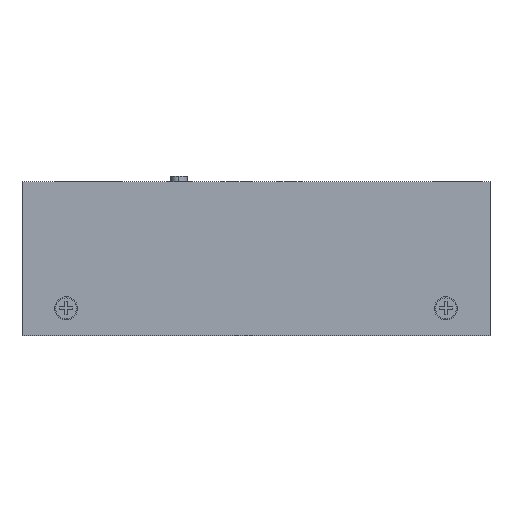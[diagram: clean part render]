
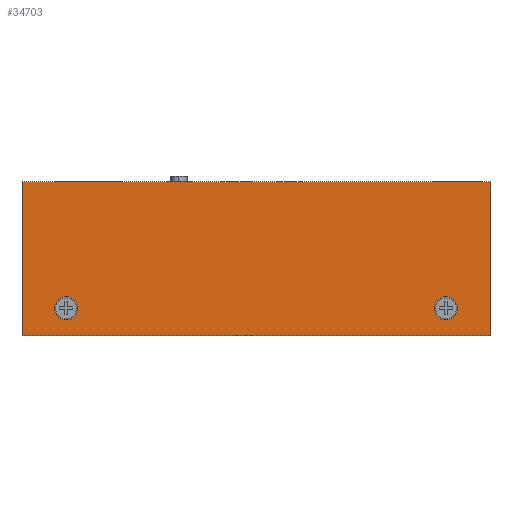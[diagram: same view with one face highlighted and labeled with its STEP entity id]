
A CAD part, left-side view. The second image highlights one B-rep face of the part: STEP entity #34703.
In plain terms, the highlighted planar face has unit normal (-1, 0, 0).
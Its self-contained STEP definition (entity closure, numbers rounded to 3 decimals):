
#1431 = CARTESIAN_POINT ( 'NONE',  ( -27.5, 42.5, 7.6 ) ) ;
#1749 = DIRECTION ( 'NONE',  ( 0., 0., 1. ) ) ;
#3354 = EDGE_LOOP ( 'NONE', ( #31233, #18241, #31537, #23735 ) ) ;
#4358 = AXIS2_PLACEMENT_3D ( 'NONE', #42921, #32651, #16279 ) ;
#4927 = DIRECTION ( 'NONE',  ( 0., 0., 1. ) ) ;
#5154 = VERTEX_POINT ( 'NONE', #21824 ) ;
#5876 = VERTEX_POINT ( 'NONE', #35185 ) ;
#6263 = LINE ( 'NONE', #1431, #19857 ) ;
#6659 = AXIS2_PLACEMENT_3D ( 'NONE', #41344, #8308, #1749 ) ;
#8308 = DIRECTION ( 'NONE',  ( -1., 0., 0. ) ) ;
#8695 = CARTESIAN_POINT ( 'NONE',  ( -27.5, 34.5, 0.7 ) ) ;
#8937 = ORIENTED_EDGE ( 'NONE', *, *, #26122, .F. ) ;
#9574 = PLANE ( 'NONE',  #4358 ) ;
#9684 = DIRECTION ( 'NONE',  ( 0., 0., 1. ) ) ;
#10685 = FACE_BOUND ( 'NONE', #23106, .T. ) ;
#10780 = EDGE_CURVE ( 'NONE', #19134, #16611, #11673, .T. ) ;
#11673 = CIRCLE ( 'NONE', #15445, 2.1 ) ;
#11985 = VERTEX_POINT ( 'NONE', #29918 ) ;
#13433 = CIRCLE ( 'NONE', #31690, 2.1 ) ;
#13648 = ORIENTED_EDGE ( 'NONE', *, *, #26802, .F. ) ;
#13778 = EDGE_CURVE ( 'NONE', #5154, #38101, #6263, .T. ) ;
#15445 = AXIS2_PLACEMENT_3D ( 'NONE', #17985, #37891, #41232 ) ;
#16034 = LINE ( 'NONE', #17057, #33961 ) ;
#16279 = DIRECTION ( 'NONE',  ( 0., 1., 0. ) ) ;
#16611 = VERTEX_POINT ( 'NONE', #8695 ) ;
#16646 = VECTOR ( 'NONE', #21542, 1000. ) ;
#17057 = CARTESIAN_POINT ( 'NONE',  ( -27.5, -42.5, 7.6 ) ) ;
#17285 = CARTESIAN_POINT ( 'NONE',  ( -27.5, -42.5, 21.6 ) ) ;
#17985 = CARTESIAN_POINT ( 'NONE',  ( -27.5, 34.5, -1.4 ) ) ;
#18197 = EDGE_CURVE ( 'NONE', #5876, #5154, #22295, .T. ) ;
#18241 = ORIENTED_EDGE ( 'NONE', *, *, #38237, .F. ) ;
#18768 = VERTEX_POINT ( 'NONE', #17285 ) ;
#19134 = VERTEX_POINT ( 'NONE', #29074 ) ;
#19614 = FACE_OUTER_BOUND ( 'NONE', #3354, .T. ) ;
#19857 = VECTOR ( 'NONE', #4927, 1000. ) ;
#20206 = EDGE_CURVE ( 'NONE', #16611, #19134, #37911, .T. ) ;
#20306 = DIRECTION ( 'NONE',  ( 0., 0., -1. ) ) ;
#21003 = CARTESIAN_POINT ( 'NONE',  ( -27.5, 34.5, -1.4 ) ) ;
#21542 = DIRECTION ( 'NONE',  ( 0., -1., 0. ) ) ;
#21824 = CARTESIAN_POINT ( 'NONE',  ( -27.5, 42.5, -6.4 ) ) ;
#22295 = LINE ( 'NONE', #41310, #32320 ) ;
#22484 = ORIENTED_EDGE ( 'NONE', *, *, #20206, .F. ) ;
#23106 = EDGE_LOOP ( 'NONE', ( #8937, #13648 ) ) ;
#23735 = ORIENTED_EDGE ( 'NONE', *, *, #18197, .F. ) ;
#24437 = DIRECTION ( 'NONE',  ( 0., 0., 1. ) ) ;
#24607 = LINE ( 'NONE', #41823, #16646 ) ;
#25750 = VERTEX_POINT ( 'NONE', #34411 ) ;
#26122 = EDGE_CURVE ( 'NONE', #25750, #11985, #13433, .T. ) ;
#26802 = EDGE_CURVE ( 'NONE', #11985, #25750, #31819, .T. ) ;
#28505 = EDGE_LOOP ( 'NONE', ( #22484, #32192 ) ) ;
#29074 = CARTESIAN_POINT ( 'NONE',  ( -27.5, 34.5, -3.5 ) ) ;
#29830 = DIRECTION ( 'NONE',  ( -1., 0., 0. ) ) ;
#29918 = CARTESIAN_POINT ( 'NONE',  ( -27.5, -34.5, -3.5 ) ) ;
#31233 = ORIENTED_EDGE ( 'NONE', *, *, #42223, .F. ) ;
#31537 = ORIENTED_EDGE ( 'NONE', *, *, #13778, .F. ) ;
#31690 = AXIS2_PLACEMENT_3D ( 'NONE', #36572, #29830, #9684 ) ;
#31819 = CIRCLE ( 'NONE', #6659, 2.1 ) ;
#32192 = ORIENTED_EDGE ( 'NONE', *, *, #10780, .F. ) ;
#32320 = VECTOR ( 'NONE', #40878, 1000. ) ;
#32651 = DIRECTION ( 'NONE',  ( 1., 0., 0. ) ) ;
#33719 = AXIS2_PLACEMENT_3D ( 'NONE', #21003, #38395, #24437 ) ;
#33779 = CARTESIAN_POINT ( 'NONE',  ( -27.5, 42.5, 21.6 ) ) ;
#33961 = VECTOR ( 'NONE', #20306, 1000. ) ;
#34411 = CARTESIAN_POINT ( 'NONE',  ( -27.5, -34.5, 0.7 ) ) ;
#34703 = ADVANCED_FACE ( 'NONE', ( #41713, #10685, #19614 ), #9574, .F. ) ;
#35185 = CARTESIAN_POINT ( 'NONE',  ( -27.5, -42.5, -6.4 ) ) ;
#36572 = CARTESIAN_POINT ( 'NONE',  ( -27.5, -34.5, -1.4 ) ) ;
#37891 = DIRECTION ( 'NONE',  ( -1., 0., 0. ) ) ;
#37911 = CIRCLE ( 'NONE', #33719, 2.1 ) ;
#38101 = VERTEX_POINT ( 'NONE', #33779 ) ;
#38237 = EDGE_CURVE ( 'NONE', #38101, #18768, #24607, .T. ) ;
#38395 = DIRECTION ( 'NONE',  ( -1., 0., 0. ) ) ;
#40878 = DIRECTION ( 'NONE',  ( 0., 1., 0. ) ) ;
#41232 = DIRECTION ( 'NONE',  ( 0., 0., 1. ) ) ;
#41310 = CARTESIAN_POINT ( 'NONE',  ( -27.5, 0., -6.4 ) ) ;
#41344 = CARTESIAN_POINT ( 'NONE',  ( -27.5, -34.5, -1.4 ) ) ;
#41713 = FACE_BOUND ( 'NONE', #28505, .T. ) ;
#41823 = CARTESIAN_POINT ( 'NONE',  ( -27.5, 0., 21.6 ) ) ;
#42223 = EDGE_CURVE ( 'NONE', #18768, #5876, #16034, .T. ) ;
#42921 = CARTESIAN_POINT ( 'NONE',  ( -27.5, -42.5, -6.4 ) ) ;
